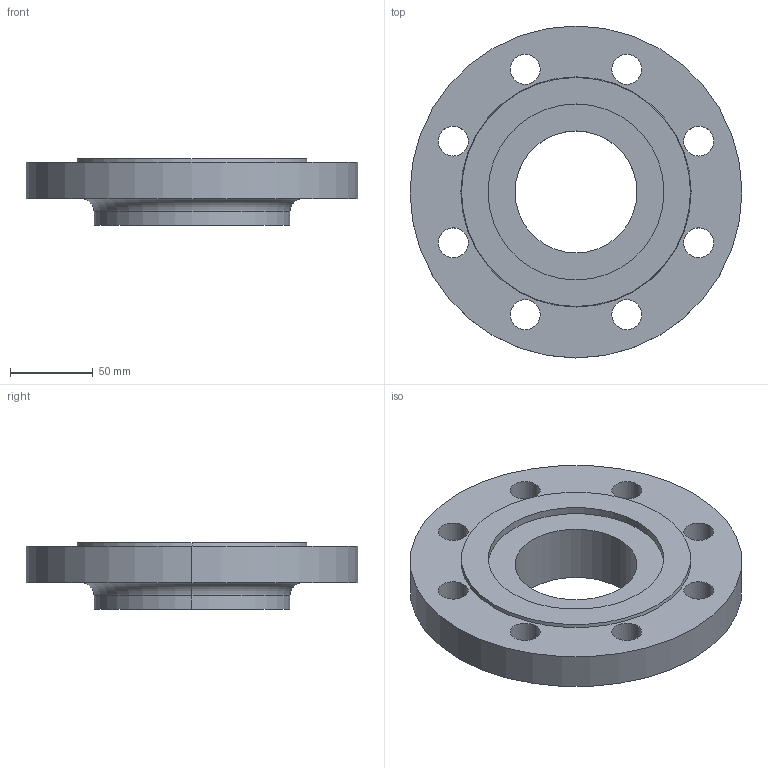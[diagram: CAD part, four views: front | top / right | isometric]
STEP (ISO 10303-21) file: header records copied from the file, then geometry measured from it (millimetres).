
FILE_DESCRIPTION (( 'STEP AP214' ), '1' );
FILE_NAME ('PN40 DN80 Type 13 - Type G Face.STEP', '2019-01-01T19:37:10', ( '' ), ( '' ), 'SwSTEP 2.0', 'SolidWorks 2019', '' );
FILE_SCHEMA (( 'AUTOMOTIVE_DESIGN' ));
Length unit declared in the file: millimetre
Products named in the file (1): PN40 DN80 Type 13 - Type G Face
Bounding box: 200 x 200 x 40 mm (x, y, z)
Volume: 666295.7 mm3; surface area: 89161.6 mm2
Topology: 1 solids, 1 shells, 33 faces, 82 edges, 54 vertices
Faces by surface type: cylinder 24, plane 5, torus 2, cone 2
Entity records: 1086 total; most frequent: DIRECTION 206, CARTESIAN_POINT 170, ORIENTED_EDGE 164, AXIS2_PLACEMENT_3D 90, EDGE_CURVE 82, CIRCLE 56, EDGE_LOOP 54, VERTEX_POINT 54
